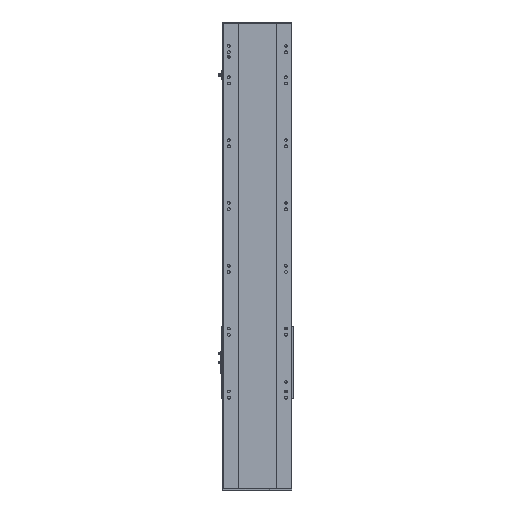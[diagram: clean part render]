
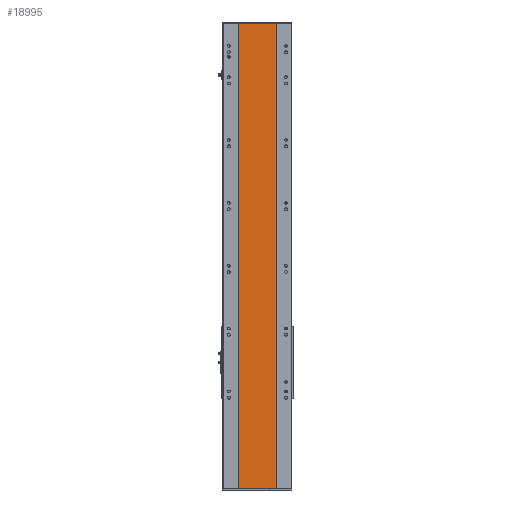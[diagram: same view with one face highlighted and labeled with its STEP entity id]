
A CAD part, front view. The second image highlights one B-rep face of the part: STEP entity #18995.
In plain terms, the highlighted planar face has unit normal (0, -1, 0).
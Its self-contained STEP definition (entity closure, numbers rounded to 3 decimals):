
#49 = VERTEX_POINT ( 'NONE', #20774 ) ;
#192 = DIRECTION ( 'NONE',  ( 0., 0., -1. ) ) ;
#604 = CARTESIAN_POINT ( 'NONE',  ( 432.408, 155.016, 1478. ) ) ;
#964 = PLANE ( 'NONE',  #2625 ) ;
#1244 = CARTESIAN_POINT ( 'NONE',  ( 0., 155.016, 0. ) ) ;
#1379 = DIRECTION ( 'NONE',  ( 0., 0., -1. ) ) ;
#1850 = ORIENTED_EDGE ( 'NONE', *, *, #10303, .F. ) ;
#2128 = CARTESIAN_POINT ( 'NONE',  ( 0., 155.016, 1478. ) ) ;
#2395 = ORIENTED_EDGE ( 'NONE', *, *, #16534, .T. ) ;
#2625 = AXIS2_PLACEMENT_3D ( 'NONE', #11339, #12668, #7866 ) ;
#2894 = LINE ( 'NONE', #1244, #21329 ) ;
#4223 = DIRECTION ( 'NONE',  ( 1., 0., 0. ) ) ;
#4608 = VECTOR ( 'NONE', #1379, 1000. ) ;
#5259 = CARTESIAN_POINT ( 'NONE',  ( 551.58, 155.016, 1478. ) ) ;
#6274 = FACE_OUTER_BOUND ( 'NONE', #10467, .T. ) ;
#7167 = CARTESIAN_POINT ( 'NONE',  ( 432.408, 155.016, 1478. ) ) ;
#7566 = LINE ( 'NONE', #2128, #15756 ) ;
#7866 = DIRECTION ( 'NONE',  ( 0., 0., 1. ) ) ;
#8983 = VECTOR ( 'NONE', #192, 1000. ) ;
#9053 = EDGE_CURVE ( 'NONE', #13275, #49, #10641, .T. ) ;
#10303 = EDGE_CURVE ( 'NONE', #12301, #15656, #13534, .T. ) ;
#10467 = EDGE_LOOP ( 'NONE', ( #2395, #1850, #13547, #16377 ) ) ;
#10641 = LINE ( 'NONE', #7167, #8983 ) ;
#11339 = CARTESIAN_POINT ( 'NONE',  ( 0., 155.016, 1478. ) ) ;
#12301 = VERTEX_POINT ( 'NONE', #5259 ) ;
#12399 = DIRECTION ( 'NONE',  ( 1., 0., 0. ) ) ;
#12668 = DIRECTION ( 'NONE',  ( 0., 1., 0. ) ) ;
#13275 = VERTEX_POINT ( 'NONE', #604 ) ;
#13534 = LINE ( 'NONE', #20277, #4608 ) ;
#13547 = ORIENTED_EDGE ( 'NONE', *, *, #17847, .F. ) ;
#15656 = VERTEX_POINT ( 'NONE', #19025 ) ;
#15756 = VECTOR ( 'NONE', #12399, 1000. ) ;
#16377 = ORIENTED_EDGE ( 'NONE', *, *, #9053, .T. ) ;
#16534 = EDGE_CURVE ( 'NONE', #49, #15656, #2894, .T. ) ;
#17847 = EDGE_CURVE ( 'NONE', #13275, #12301, #7566, .T. ) ;
#18995 = ADVANCED_FACE ( 'NONE', ( #6274 ), #964, .F. ) ;
#19025 = CARTESIAN_POINT ( 'NONE',  ( 551.58, 155.016, 0. ) ) ;
#20277 = CARTESIAN_POINT ( 'NONE',  ( 551.58, 155.016, 1478. ) ) ;
#20774 = CARTESIAN_POINT ( 'NONE',  ( 432.408, 155.016, 0. ) ) ;
#21329 = VECTOR ( 'NONE', #4223, 1000. ) ;
